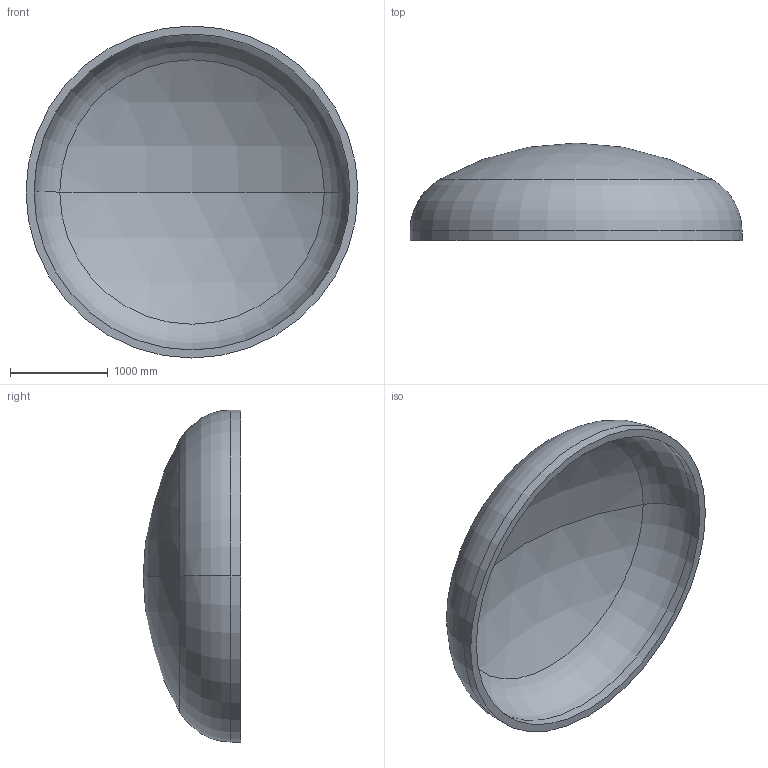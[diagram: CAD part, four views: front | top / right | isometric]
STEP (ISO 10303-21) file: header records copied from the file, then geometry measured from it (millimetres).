
FILE_DESCRIPTION (( 'STEP AP203' ), '1' );
FILE_NAME ('DIN 28013 Korbbogenform_-_Boden DIN 28013 - 3400 x 100 - I - s=82.step', '2016-07-01T19:46:32', ( '' ), ( '' ), 'SwSTEP 2.0', 'SolidWorks 2013', '' );
FILE_SCHEMA (( 'CONFIG_CONTROL_DESIGN' ));
Length unit declared in the file: millimetre
Products named in the file (1): DIN 28013 Korbbogenform_-_Boden DIN 28013 - 3400 x 100 - I - s=82
Bounding box: 3400 x 998.48 x 3400 mm (x, y, z)
Volume: 1084993961.6 mm3; surface area: 27332093 mm2
Topology: 1 solids, 1 shells, 13 faces, 24 edges, 14 vertices
Faces by surface type: torus 4, cylinder 4, sphere 4, plane 1
Entity records: 407 total; most frequent: DIRECTION 72, CARTESIAN_POINT 52, ORIENTED_EDGE 48, AXIS2_PLACEMENT_3D 34, EDGE_CURVE 24, CIRCLE 20, VERTEX_POINT 14, EDGE_LOOP 14
